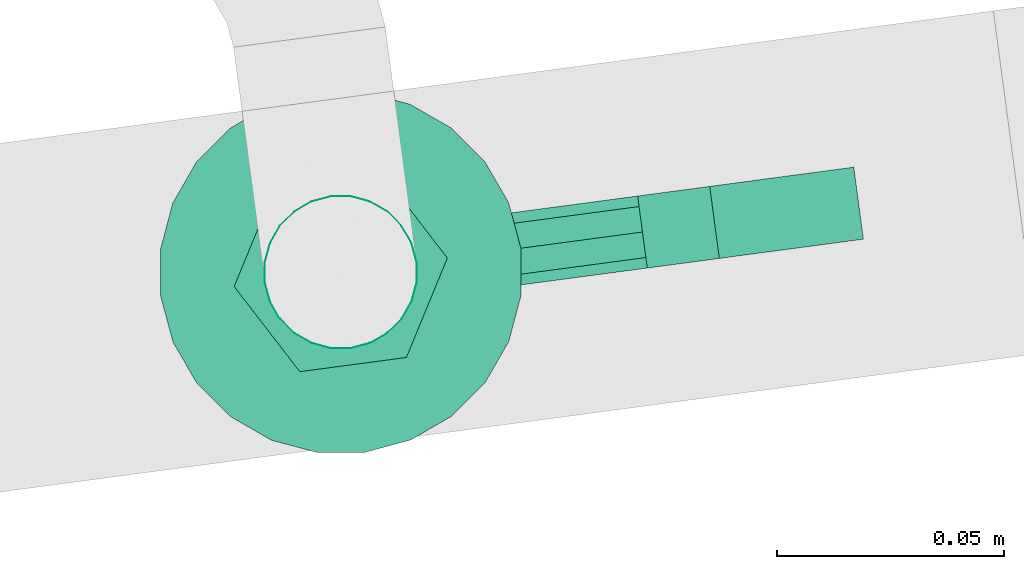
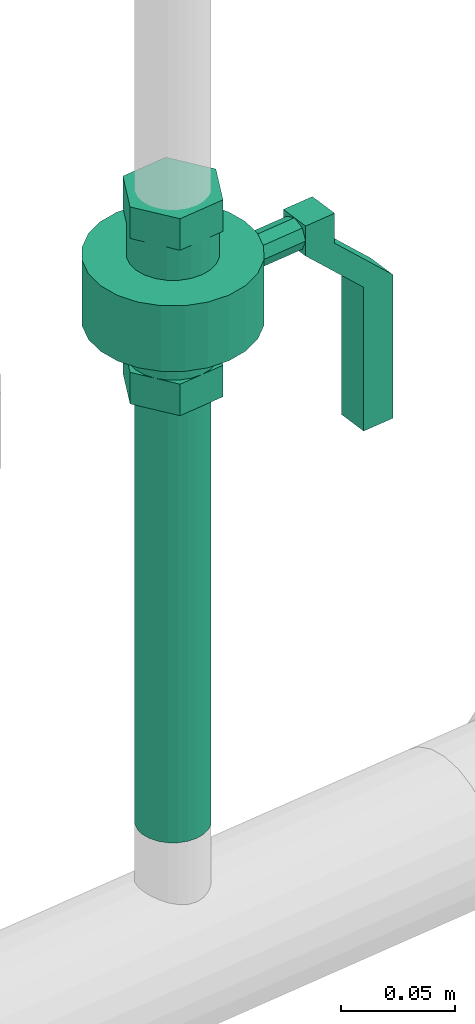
# One storey, part 330 of 374: 1 flow controller, 1 flow segment.
"""IFC2X3 building model written with IfcOpenShell, lengths in metres."""

from ifc_helpers import new_model, si_unit, direction, origin, place, context, subcontext, project, spatial, open_shell, surface_model, source, transform, mapped, element, save


model = new_model("IFC2X3")

# Units and contexts
model_context = context("Model", 3, precision=1e-05, world=origin(), true_north=direction((-0.4480736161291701, 0.8939966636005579)))
body_context = subcontext(model_context, "Body", "Model", "MODEL_VIEW")
ifc_project = project(units=[si_unit("LENGTHUNIT", "METRE"), si_unit("AREAUNIT", "SQUARE_METRE"), si_unit("VOLUMEUNIT", "CUBIC_METRE"), si_unit("PLANEANGLEUNIT", "RADIAN"), si_unit("THERMODYNAMICTEMPERATUREUNIT", "KELVIN"), si_unit("MASSUNIT", "GRAM", prefix="KILO"), si_unit("TIMEUNIT", "SECOND")], contexts=[model_context])

# Site, building, storey
site_placement = place(None, origin())
site = spatial("IfcSite", under=ifc_project, at=site_placement, Name="Site 1", CompositionType="ELEMENT")
building_placement = place(site_placement, origin())
building = spatial("IfcBuilding", under=site, at=building_placement, Name="Undefined", CompositionType="ELEMENT")
storey_placement = place(building_placement, origin())
storey = spatial("IfcBuildingStorey", under=building, at=storey_placement, Name="Rez de chauss\x8ee", CompositionType="ELEMENT", Elevation=0.0)

# Flow controller
shared_shape_1 = source(origin(), body_context, "Body", "SurfaceModel", [
    surface_model("IfcFaceBasedSurfaceModel", [(0.0, 0.0, 0.0), (0.016000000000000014, 0.0, 0.0), (0.016000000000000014, 0.015999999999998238, 0.0), (0.0, 0.015999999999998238, 0.0), (0.016000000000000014, 0.0, -0.016000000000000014), (0.016000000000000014, 0.015999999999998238, -0.016000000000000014), (0.0, 0.0, -0.016000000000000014), (0.0, 0.015999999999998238, -0.016000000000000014), (-0.030333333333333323, -1.9539925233e-14, -0.04799999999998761), (-0.030333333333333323, 0.015999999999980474, -0.04799999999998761), (-0.10699999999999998, -1.9539925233e-14, -0.04799999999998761), (-0.10699999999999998, 0.015999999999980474, -0.04799999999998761), (-0.10699999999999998, -1.4210854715e-14, -0.031999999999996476), (-0.10699999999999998, 0.015999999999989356, -0.031999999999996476), (-0.030333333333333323, -1.4210854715e-14, -0.031999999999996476), (-0.030333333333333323, 0.015999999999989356, -0.031999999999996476), (0.0605, 0.02850000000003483, 0.07883568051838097), (0.0605, 0.028500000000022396, 0.05516431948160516), (0.04370000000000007, 0.028500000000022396, 0.05516431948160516), (0.04370000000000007, 0.02850000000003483, 0.07883568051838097), (0.0605, 0.008000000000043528, 0.09067136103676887), (0.04370000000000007, 0.008000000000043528, 0.09067136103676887), (0.0605, -0.012499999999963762, 0.07883568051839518), (0.04370000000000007, -0.012499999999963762, 0.07883568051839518), (0.0605, -0.01249999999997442, 0.05516431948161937), (0.04370000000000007, -0.01249999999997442, 0.05516431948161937), (0.0605, 0.008000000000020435, 0.04332863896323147), (0.04370000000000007, 0.008000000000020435, 0.04332863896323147), (0.04370000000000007, -0.012499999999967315, 0.06700000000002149), (0.04370000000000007, -0.011801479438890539, 0.07230579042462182), (0.025500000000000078, -0.011801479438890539, 0.07230579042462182), (0.025500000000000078, -0.012499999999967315, 0.06700000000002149), (0.04370000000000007, -0.009753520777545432, 0.07724999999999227), (0.025500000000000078, -0.009753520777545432, 0.07724999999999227), (0.04370000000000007, -0.006495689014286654, 0.08149568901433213), (0.025500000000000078, -0.006495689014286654, 0.08149568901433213), (0.04370000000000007, -0.0022499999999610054, 0.08475352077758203), (0.025500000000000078, -0.0022499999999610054, 0.08475352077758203), (0.04370000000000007, 0.0026942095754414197, 0.08680147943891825), (0.025500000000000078, 0.0026942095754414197, 0.08680147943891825), (0.04370000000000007, 0.008000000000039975, 0.08750000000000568), (0.025500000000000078, 0.008000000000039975, 0.08750000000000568), (0.04370000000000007, 0.01330579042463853, 0.08680147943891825), (0.025500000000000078, 0.01330579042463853, 0.08680147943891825), (0.04370000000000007, 0.018250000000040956, 0.08475352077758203), (0.025500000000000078, 0.018250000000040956, 0.08475352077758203), (0.04370000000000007, 0.022495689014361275, 0.08149568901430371), (0.025500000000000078, 0.022495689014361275, 0.08149568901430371), (0.04370000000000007, 0.025753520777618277, 0.07724999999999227), (0.025500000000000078, 0.025753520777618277, 0.07724999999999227), (0.04370000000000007, 0.02780147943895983, 0.07230579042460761), (0.025500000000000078, 0.02780147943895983, 0.07230579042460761), (0.04370000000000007, 0.028500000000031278, 0.06699999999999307), (0.025500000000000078, 0.028500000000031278, 0.06699999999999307), (0.04370000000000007, 0.0278014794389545, 0.06169420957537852), (0.025500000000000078, 0.0278014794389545, 0.06169420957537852), (0.04370000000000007, 0.025753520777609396, 0.05675000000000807), (0.025500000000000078, 0.025753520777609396, 0.05675000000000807), (0.04370000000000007, 0.022495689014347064, 0.05250431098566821), (0.025500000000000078, 0.022495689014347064, 0.05250431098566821), (0.04370000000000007, 0.01825000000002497, 0.049246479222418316), (0.025500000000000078, 0.01825000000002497, 0.049246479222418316), (0.04370000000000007, 0.013305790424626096, 0.04719852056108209), (0.025500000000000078, 0.013305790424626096, 0.04719852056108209), (0.04370000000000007, 0.008000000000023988, 0.04650000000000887), (0.025500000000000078, 0.008000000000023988, 0.04650000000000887), (0.04370000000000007, 0.002694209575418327, 0.04719852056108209), (0.025500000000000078, 0.002694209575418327, 0.04719852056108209), (0.04370000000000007, -0.0022499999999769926, 0.049246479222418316), (0.025500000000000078, -0.0022499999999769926, 0.049246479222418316), (0.04370000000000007, -0.006495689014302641, 0.05250431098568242), (0.025500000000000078, -0.006495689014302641, 0.05250431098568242), (0.04370000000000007, -0.009753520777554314, 0.05675000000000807), (0.025500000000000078, -0.009753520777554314, 0.05675000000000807), (0.04370000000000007, -0.011801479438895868, 0.061694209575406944), (0.025500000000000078, -0.011801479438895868, 0.061694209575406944), (0.025500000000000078, -0.03199999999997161, 0.06700000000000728), (0.025500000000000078, -0.030637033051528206, 0.07735276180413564), (-0.009500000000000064, -0.030637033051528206, 0.07735276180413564), (-0.009500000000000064, -0.03199999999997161, 0.06700000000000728), (0.025500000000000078, -0.026641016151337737, 0.0870000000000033), (-0.009500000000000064, -0.026641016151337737, 0.0870000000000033), (0.025500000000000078, -0.020284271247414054, 0.09528427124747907), (-0.009500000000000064, -0.020284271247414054, 0.09528427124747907), (0.025500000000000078, -0.011999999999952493, 0.10164101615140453), (-0.009500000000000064, -0.011999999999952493, 0.10164101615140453), (0.025500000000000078, -0.002352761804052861, 0.10563703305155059), (-0.009500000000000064, -0.002352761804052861, 0.10563703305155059), (0.025500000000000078, 0.00800000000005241, 0.10699999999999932), (-0.009500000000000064, 0.00800000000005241, 0.10699999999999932), (0.025500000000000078, 0.0183527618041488, 0.10563703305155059), (-0.009500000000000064, 0.0183527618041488, 0.10563703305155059), (0.025500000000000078, 0.02800000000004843, 0.1016410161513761), (-0.009500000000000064, 0.02800000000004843, 0.1016410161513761), (0.025500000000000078, 0.03628427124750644, 0.09528427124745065), (-0.009500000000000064, 0.03628427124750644, 0.09528427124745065), (0.025500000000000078, 0.04264101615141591, 0.08699999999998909), (-0.009500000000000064, 0.04264101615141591, 0.08699999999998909), (0.025500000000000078, 0.04663703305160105, 0.0773527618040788), (-0.009500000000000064, 0.04663703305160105, 0.0773527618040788), (0.025500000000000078, 0.04800000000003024, 0.06699999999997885), (-0.009500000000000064, 0.04800000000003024, 0.06699999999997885), (0.025500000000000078, 0.04663703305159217, 0.056647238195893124), (-0.009500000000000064, 0.04663703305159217, 0.056647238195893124), (0.025500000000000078, 0.0426410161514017, 0.04699999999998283), (-0.009500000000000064, 0.0426410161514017, 0.04699999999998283), (0.025500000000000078, 0.03628427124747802, 0.03871572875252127), (-0.009500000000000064, 0.03628427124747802, 0.03871572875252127), (0.025500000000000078, 0.028000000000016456, 0.03235898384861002), (-0.009500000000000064, 0.028000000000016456, 0.03235898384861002), (0.025500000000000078, 0.018352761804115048, 0.028362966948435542), (-0.009500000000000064, 0.018352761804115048, 0.028362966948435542), (0.025500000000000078, 0.008000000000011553, 0.027000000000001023), (-0.009500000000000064, 0.008000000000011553, 0.027000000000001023), (0.025500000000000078, -0.0023527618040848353, 0.028362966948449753), (-0.009500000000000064, -0.0023527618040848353, 0.028362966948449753), (0.025500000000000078, -0.011999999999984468, 0.032358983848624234), (-0.009500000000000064, -0.011999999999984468, 0.032358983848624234), (0.025500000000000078, -0.020284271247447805, 0.038715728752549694), (-0.009500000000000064, -0.020284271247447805, 0.038715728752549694), (0.025500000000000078, -0.0266410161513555, 0.047000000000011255), (-0.009500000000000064, -0.0266410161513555, 0.047000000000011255), (0.025500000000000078, -0.030637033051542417, 0.056647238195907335), (-0.009500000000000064, -0.030637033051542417, 0.056647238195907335), (0.025500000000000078, 0.008000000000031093, 0.06700000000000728), (-0.009500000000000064, 0.008000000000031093, 0.06700000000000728), (-0.009500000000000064, -0.012499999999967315, 0.06700000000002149), (-0.009500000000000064, -0.011801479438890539, 0.07230579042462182), (-0.027700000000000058, -0.011801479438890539, 0.07230579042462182), (-0.027700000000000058, -0.012499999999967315, 0.06700000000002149), (-0.009500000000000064, -0.009753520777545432, 0.07724999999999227), (-0.027700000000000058, -0.009753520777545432, 0.07724999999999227), (-0.009500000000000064, -0.006495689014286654, 0.08149568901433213), (-0.027700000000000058, -0.006495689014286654, 0.08149568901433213), (-0.009500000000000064, -0.0022499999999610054, 0.08475352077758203), (-0.027700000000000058, -0.0022499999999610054, 0.08475352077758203), (-0.009500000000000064, 0.0026942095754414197, 0.08680147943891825), (-0.027700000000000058, 0.0026942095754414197, 0.08680147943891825), (-0.009500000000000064, 0.008000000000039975, 0.08750000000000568), (-0.027700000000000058, 0.008000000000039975, 0.08750000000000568), (-0.009500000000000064, 0.01330579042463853, 0.08680147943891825), (-0.027700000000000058, 0.01330579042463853, 0.08680147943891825), (-0.009500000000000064, 0.018250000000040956, 0.08475352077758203), (-0.027700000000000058, 0.018250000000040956, 0.08475352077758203), (-0.009500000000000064, 0.022495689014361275, 0.08149568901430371), (-0.027700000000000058, 0.022495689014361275, 0.08149568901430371), (-0.009500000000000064, 0.025753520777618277, 0.07724999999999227), (-0.027700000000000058, 0.025753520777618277, 0.07724999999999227), (-0.009500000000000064, 0.02780147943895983, 0.07230579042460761), (-0.027700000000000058, 0.02780147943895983, 0.07230579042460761), (-0.009500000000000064, 0.028500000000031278, 0.06699999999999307), (-0.027700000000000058, 0.028500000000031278, 0.06699999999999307), (-0.009500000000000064, 0.0278014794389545, 0.06169420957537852), (-0.027700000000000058, 0.0278014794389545, 0.06169420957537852), (-0.009500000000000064, 0.025753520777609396, 0.05675000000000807), (-0.027700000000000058, 0.025753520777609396, 0.05675000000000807), (-0.009500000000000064, 0.022495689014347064, 0.05250431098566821), (-0.027700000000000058, 0.022495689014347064, 0.05250431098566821), (-0.009500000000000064, 0.01825000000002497, 0.049246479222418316), (-0.027700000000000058, 0.01825000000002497, 0.049246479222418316), (-0.009500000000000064, 0.013305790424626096, 0.04719852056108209), (-0.027700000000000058, 0.013305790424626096, 0.04719852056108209), (-0.009500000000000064, 0.008000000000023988, 0.04650000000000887), (-0.027700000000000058, 0.008000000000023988, 0.04650000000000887), (-0.009500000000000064, 0.002694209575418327, 0.04719852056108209), (-0.027700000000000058, 0.002694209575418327, 0.04719852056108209), (-0.009500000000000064, -0.0022499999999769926, 0.049246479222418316), (-0.027700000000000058, -0.0022499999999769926, 0.049246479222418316), (-0.009500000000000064, -0.006495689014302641, 0.05250431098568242), (-0.027700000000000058, -0.006495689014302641, 0.05250431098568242), (-0.009500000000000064, -0.009753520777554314, 0.05675000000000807), (-0.027700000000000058, -0.009753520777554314, 0.05675000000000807), (-0.009500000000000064, -0.011801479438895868, 0.061694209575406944), (-0.027700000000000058, -0.011801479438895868, 0.061694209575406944), (-0.027700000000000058, 0.02850000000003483, 0.07883568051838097), (-0.027700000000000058, 0.028500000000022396, 0.05516431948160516), (-0.044499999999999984, 0.028500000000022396, 0.05516431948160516), (-0.044499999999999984, 0.02850000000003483, 0.07883568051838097), (-0.027700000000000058, 0.008000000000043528, 0.09067136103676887), (-0.044499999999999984, 0.008000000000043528, 0.09067136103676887), (-0.027700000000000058, -0.012499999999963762, 0.07883568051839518), (-0.044499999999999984, -0.012499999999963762, 0.07883568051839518), (-0.027700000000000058, -0.01249999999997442, 0.05516431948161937), (-0.044499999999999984, -0.01249999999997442, 0.05516431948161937), (-0.027700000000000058, 0.008000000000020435, 0.04332863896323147), (-0.044499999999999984, 0.008000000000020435, 0.04332863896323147), (0.0, 0.008000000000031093, 0.06700000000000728), (0.002343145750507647, 0.013656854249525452, 0.06700000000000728), (0.002343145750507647, 0.013656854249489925, 0.0), (0.0, 0.008, 0.0), (0.008000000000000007, 0.016000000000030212, 0.06699999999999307), (0.008000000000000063, 0.015999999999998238, 0.0), (0.013656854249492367, 0.013656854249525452, 0.06700000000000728), (0.013656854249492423, 0.013656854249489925, 0.0), (0.016000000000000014, 0.008000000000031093, 0.06700000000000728), (0.016000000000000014, 0.008000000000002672, 0.0), (0.013656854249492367, 0.002343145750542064, 0.06699999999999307), (0.013656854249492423, 0.002343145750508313, 0.0), (0.008000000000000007, 3.3750779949e-14, 0.06700000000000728), (0.008000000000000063, 0.0, 0.0), (0.002343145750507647, 0.002343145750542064, 0.06699999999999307), (0.002343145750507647, 0.002343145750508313, 0.0)], [open_shell([[[0, 1, 2, 3]], [[1, 4, 5, 2]], [[4, 6, 7, 5]], [[6, 8, 9, 7]], [[8, 10, 11, 9]], [[10, 12, 13, 11]], [[12, 14, 15, 13]], [[14, 0, 3, 15]], [[2, 7, 3]], [[9, 3, 7]], [[3, 9, 15]], [[11, 15, 9]], [[15, 11, 13]], [[7, 2, 5]], [[0, 6, 1]], [[6, 0, 8]], [[14, 8, 0]], [[8, 14, 10]], [[12, 10, 14]], [[4, 1, 6]], [[16, 17, 18, 19]], [[20, 16, 19, 21]], [[22, 20, 21, 23]], [[24, 22, 23, 25]], [[26, 24, 25, 27]], [[17, 26, 27, 18]], [[17, 16, 20]], [[17, 20, 22]], [[17, 22, 24]], [[17, 24, 26]], [[18, 21, 19]], [[18, 23, 21]], [[18, 25, 23]], [[18, 27, 25]], [[28, 29, 30, 31]], [[29, 32, 33, 30]], [[32, 34, 35, 33]], [[34, 36, 37, 35]], [[36, 38, 39, 37]], [[38, 40, 41, 39]], [[40, 42, 43, 41]], [[42, 44, 45, 43]], [[44, 46, 47, 45]], [[46, 48, 49, 47]], [[48, 50, 51, 49]], [[50, 52, 53, 51]], [[52, 54, 55, 53]], [[54, 56, 57, 55]], [[56, 58, 59, 57]], [[58, 60, 61, 59]], [[60, 62, 63, 61]], [[62, 64, 65, 63]], [[64, 66, 67, 65]], [[66, 68, 69, 67]], [[68, 70, 71, 69]], [[70, 72, 73, 71]], [[72, 74, 75, 73]], [[74, 28, 31, 75]], [[76, 77, 78, 79]], [[77, 80, 81, 78]], [[80, 82, 83, 81]], [[82, 84, 85, 83]], [[84, 86, 87, 85]], [[86, 88, 89, 87]], [[88, 90, 91, 89]], [[90, 92, 93, 91]], [[92, 94, 95, 93]], [[94, 96, 97, 95]], [[96, 98, 99, 97]], [[98, 100, 101, 99]], [[100, 102, 103, 101]], [[102, 104, 105, 103]], [[104, 106, 107, 105]], [[106, 108, 109, 107]], [[108, 110, 111, 109]], [[110, 112, 113, 111]], [[112, 114, 115, 113]], [[114, 116, 117, 115]], [[116, 118, 119, 117]], [[118, 120, 121, 119]], [[120, 122, 123, 121]], [[122, 76, 79, 123]], [[124, 77, 76]], [[124, 80, 77]], [[124, 82, 80]], [[124, 84, 82]], [[124, 86, 84]], [[124, 88, 86]], [[124, 90, 88]], [[124, 92, 90]], [[124, 94, 92]], [[124, 96, 94]], [[124, 98, 96]], [[124, 100, 98]], [[124, 102, 100]], [[124, 104, 102]], [[124, 106, 104]], [[124, 108, 106]], [[124, 110, 108]], [[124, 112, 110]], [[124, 114, 112]], [[124, 116, 114]], [[124, 118, 116]], [[124, 120, 118]], [[124, 122, 120]], [[124, 76, 122]], [[125, 123, 79]], [[125, 121, 123]], [[125, 119, 121]], [[125, 117, 119]], [[125, 115, 117]], [[125, 113, 115]], [[125, 111, 113]], [[125, 109, 111]], [[125, 107, 109]], [[125, 105, 107]], [[125, 103, 105]], [[125, 101, 103]], [[125, 99, 101]], [[125, 97, 99]], [[125, 95, 97]], [[125, 93, 95]], [[125, 91, 93]], [[125, 89, 91]], [[125, 87, 89]], [[125, 85, 87]], [[125, 83, 85]], [[125, 81, 83]], [[125, 78, 81]], [[125, 79, 78]], [[126, 127, 128, 129]], [[127, 130, 131, 128]], [[130, 132, 133, 131]], [[132, 134, 135, 133]], [[134, 136, 137, 135]], [[136, 138, 139, 137]], [[138, 140, 141, 139]], [[140, 142, 143, 141]], [[142, 144, 145, 143]], [[144, 146, 147, 145]], [[146, 148, 149, 147]], [[148, 150, 151, 149]], [[150, 152, 153, 151]], [[152, 154, 155, 153]], [[154, 156, 157, 155]], [[156, 158, 159, 157]], [[158, 160, 161, 159]], [[160, 162, 163, 161]], [[162, 164, 165, 163]], [[164, 166, 167, 165]], [[166, 168, 169, 167]], [[168, 170, 171, 169]], [[170, 172, 173, 171]], [[172, 126, 129, 173]], [[174, 175, 176, 177]], [[178, 174, 177, 179]], [[180, 178, 179, 181]], [[182, 180, 181, 183]], [[184, 182, 183, 185]], [[175, 184, 185, 176]], [[175, 174, 178]], [[175, 178, 180]], [[175, 180, 182]], [[175, 182, 184]], [[176, 179, 177]], [[176, 181, 179]], [[176, 183, 181]], [[176, 185, 183]], [[186, 187, 188, 189]], [[187, 190, 191, 188]], [[190, 192, 193, 191]], [[192, 194, 195, 193]], [[194, 196, 197, 195]], [[196, 198, 199, 197]], [[198, 200, 201, 199]], [[200, 186, 189, 201]]])]),
])
flow_controller_placement = place(storey_placement, origin())
element("IfcFlowController", 1, at=flow_controller_placement, inside=storey, Name="Robinet à boisseau sphérique", ObjectType="Robinet à boisseau sphérique", context=body_context, shape_type="MappedRepresentation", body=[
    mapped(shared_shape_1, transform((66.16254743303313, 20.359399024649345, 1.0454465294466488), x_axis=(0.0, 0.0, 1.0), y_axis=(-0.13225639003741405, 0.9912155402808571, 0.0), z_axis=(-0.9912155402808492, -0.13225639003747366, 0.0))),
])

# Flow segment
shared_shape_2 = source(origin(), body_context, "Body", "SurfaceModel", [
    surface_model("IfcFaceBasedSurfaceModel", [(0.0, 0.004398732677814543, 0.0), (0.0, 0.0, 0.0), (0.24926368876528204, 1.4210854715e-14, -2.664535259e-15), (0.24926368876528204, 0.004398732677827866, 8.8817842e-16), (0.0, -0.004248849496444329, -0.00113847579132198), (0.24926368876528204, -0.004248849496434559, -0.0011384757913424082), (0.0, -0.008058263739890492, -0.003337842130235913), (0.24926368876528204, -0.008058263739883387, -0.0033378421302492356), (0.0, -0.01116863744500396, -0.0064482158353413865), (0.24926368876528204, -0.011168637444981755, -0.006448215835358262), (0.0, -0.013368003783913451, -0.010257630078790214), (0.24926368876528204, -0.013368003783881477, -0.01025763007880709), (0.0, -0.014506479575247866, -0.014506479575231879), (0.24926368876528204, -0.014506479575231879, -0.014506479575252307), (0.0, -0.01450647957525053, -0.01890521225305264), (0.24926368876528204, -0.014506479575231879, -0.01890521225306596), (0.0, -0.013368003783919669, -0.023154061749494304), (0.24926368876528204, -0.013368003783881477, -0.02315406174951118), (0.0, -0.011168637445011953, -0.02696347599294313), (0.24926368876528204, -0.011168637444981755, -0.0269634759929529), (0.0, -0.008058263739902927, -0.03007384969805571), (0.24926368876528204, -0.008058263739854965, -0.030073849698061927), (0.0, -0.004248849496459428, -0.03227321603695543), (0.24926368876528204, -0.004248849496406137, -0.03227321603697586), (0.0, -1.5099033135e-14, -0.03341169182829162), (0.24926368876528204, 1.4210854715e-14, -0.03341169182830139), (0.0, 0.00439873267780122, -0.03341169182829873), (0.24926368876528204, 0.0043987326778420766, -0.03341169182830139), (0.0, 0.008647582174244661, -0.03227321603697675), (0.24926368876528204, 0.008647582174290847, -0.0322732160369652), (0.0, 0.012456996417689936, -0.030073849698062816), (0.24926368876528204, 0.012456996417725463, -0.030073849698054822), (0.0, 0.01556737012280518, -0.026963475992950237), (0.24926368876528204, 0.015567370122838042, -0.02696347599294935), (0.0, 0.017766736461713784, -0.023154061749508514), (0.24926368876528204, 0.017766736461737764, -0.023154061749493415), (0.0, 0.018905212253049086, -0.01890521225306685), (0.24926368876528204, 0.018905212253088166, -0.018905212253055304), (0.0, 0.018905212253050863, -0.01450647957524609), (0.24926368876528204, 0.018905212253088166, -0.014506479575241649), (0.0, 0.01776673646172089, -0.01025763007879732), (0.24926368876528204, 0.017766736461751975, -0.010257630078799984), (0.0, 0.015567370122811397, -0.006448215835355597), (0.24926368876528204, 0.015567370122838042, -0.006448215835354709), (0.0, 0.012456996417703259, -0.0033378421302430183), (0.24926368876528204, 0.012456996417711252, -0.0033378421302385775), (0.0, 0.00864758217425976, -0.0011384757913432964), (0.24926368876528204, 0.008647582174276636, -0.0011384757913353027)], [open_shell([[[0, 1, 2, 3]], [[1, 4, 5, 2]], [[4, 6, 7, 5]], [[6, 8, 9, 7]], [[8, 10, 11, 9]], [[10, 12, 13, 11]], [[12, 14, 15, 13]], [[14, 16, 17, 15]], [[16, 18, 19, 17]], [[18, 20, 21, 19]], [[20, 22, 23, 21]], [[22, 24, 25, 23]], [[24, 26, 27, 25]], [[26, 28, 29, 27]], [[28, 30, 31, 29]], [[30, 32, 33, 31]], [[32, 34, 35, 33]], [[34, 36, 37, 35]], [[36, 38, 39, 37]], [[38, 40, 41, 39]], [[40, 42, 43, 41]], [[42, 44, 45, 43]], [[44, 46, 47, 45]], [[46, 0, 3, 47]]])]),
])
flow_segment_placement = place(storey_placement, origin())
element("IfcFlowSegment", 2, at=flow_segment_placement, inside=storey, Name="Tube acier d'après DIN 2448", ObjectType="Tube acier d'après DIN 2448", context=body_context, shape_type="MappedRepresentation", body=[
    mapped(shared_shape_2, transform((66.08860256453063, 20.374023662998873, 0.7684828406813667), x_axis=(0.0, 0.0, 1.0), y_axis=(0.9654726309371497, 0.26050450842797, 0.0), z_axis=(-0.26050450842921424, 0.965472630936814, 0.0))),
])

save(model, "model.ifc")
